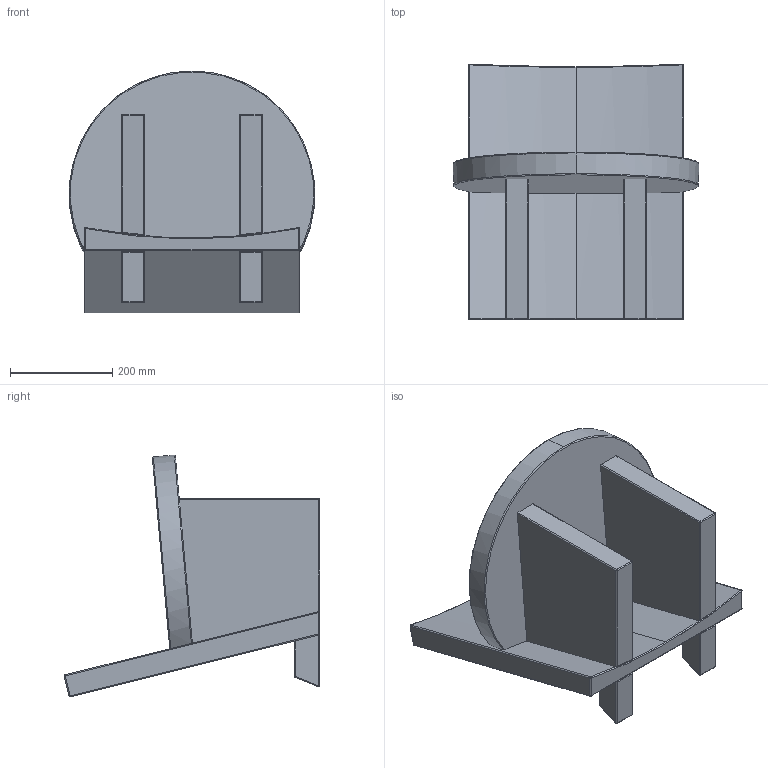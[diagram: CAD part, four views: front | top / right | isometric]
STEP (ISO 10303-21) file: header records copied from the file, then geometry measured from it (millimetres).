
FILE_DESCRIPTION (( 'STEP AP203' ), '1' );
FILE_NAME ('RUDI CHAIR.STEP', '2024-05-28T05:28:00', ( '' ), ( '' ), 'SwSTEP 2.0', 'SolidWorks 2024', '' );
FILE_SCHEMA (( 'CONFIG_CONTROL_DESIGN' ));
Length unit declared in the file: millimetre
Products named in the file (2): RUDI CHAIR; Group1^RUDI CHAIR
Assembly tree (1 placements, depth 2):
  RUDI CHAIR
    Group1^RUDI CHAIR
Bounding box: 479.15 x 499.89 x 472.83 mm (x, y, z)
Volume: 19352424.8 mm3; surface area: 1285659.7 mm2
Topology: 6 solids, 6 shells, 114 faces, 254 edges, 133 vertices
Faces by surface type: cylinder 48, plane 31, sphere 29, torus 5, bspline 1
Entity records: 3193 total; most frequent: CARTESIAN_POINT 662, DIRECTION 527, ORIENTED_EDGE 466, EDGE_CURVE 233, AXIS2_PLACEMENT_3D 212, VERTEX_POINT 131, FACE_OUTER_BOUND 114, ADVANCED_FACE 114
